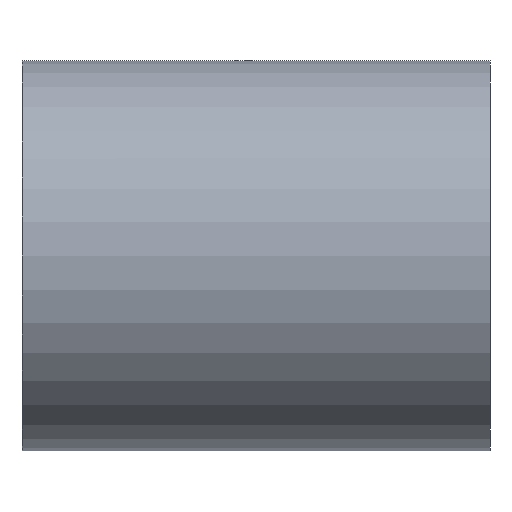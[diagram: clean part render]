
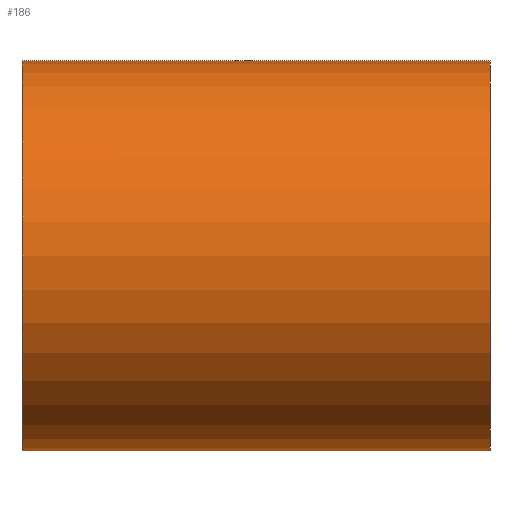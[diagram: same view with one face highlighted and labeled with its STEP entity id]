
A CAD part, front view. The second image highlights one B-rep face of the part: STEP entity #186.
In plain terms, the highlighted cylindrical face has radius 500 mm (diameter 1000 mm), a partial arc.
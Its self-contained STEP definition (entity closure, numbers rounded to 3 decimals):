
#186=ADVANCED_FACE('',(#374),#375,.T.);
#374=FACE_OUTER_BOUND('',#589,.T.);
#375=CYLINDRICAL_SURFACE('',#590,500.0);
#589=EDGE_LOOP('',(#1079,#1080,#1081,#1082));
#590=AXIS2_PLACEMENT_3D('',#1083,#1084,#1085);
#1079=ORIENTED_EDGE('',*,*,#1167,.T.);
#1080=ORIENTED_EDGE('',*,*,#1373,.F.);
#1081=ORIENTED_EDGE('',*,*,#1169,.T.);
#1082=ORIENTED_EDGE('',*,*,#1374,.F.);
#1083=CARTESIAN_POINT('',(0.0,0.0,0.0));
#1084=DIRECTION('',(1.0,0.0,0.0));
#1085=DIRECTION('',(0.0,0.0,-1.0));
#1167=EDGE_CURVE('',#1378,#1379,#1380,.T.);
#1169=EDGE_CURVE('',#1383,#1381,#1384,.T.);
#1373=EDGE_CURVE('',#1383,#1379,#1687,.T.);
#1374=EDGE_CURVE('',#1378,#1381,#1688,.T.);
#1378=VERTEX_POINT('',#1692);
#1379=VERTEX_POINT('',#1693);
#1380=LINE('',#1694,#1695);
#1381=VERTEX_POINT('',#1696);
#1383=VERTEX_POINT('',#1698);
#1384=LINE('',#1699,#1700);
#1687=CIRCLE('',#2063,500.0);
#1688=CIRCLE('',#2064,500.0);
#1692=CARTESIAN_POINT('',(-600.0,0.0,-500.0));
#1693=CARTESIAN_POINT('',(600.0,0.0,-500.0));
#1694=CARTESIAN_POINT('',(0.0,0.,-500.0));
#1695=VECTOR('',#2067,1.0);
#1696=CARTESIAN_POINT('',(-600.0,0.,500.0));
#1698=CARTESIAN_POINT('',(600.0,0.,500.0));
#1699=CARTESIAN_POINT('',(0.0,0.,500.0));
#1700=VECTOR('',#2071,1.0);
#2063=AXIS2_PLACEMENT_3D('',#2402,#2403,#2404);
#2064=AXIS2_PLACEMENT_3D('',#2405,#2406,#2407);
#2067=DIRECTION('',(1.0,0.0,0.0));
#2071=DIRECTION('',(-1.0,-0.0,-0.0));
#2402=CARTESIAN_POINT('',(600.0,0.0,0.0));
#2403=DIRECTION('',(1.0,0.0,0.0));
#2404=DIRECTION('',(0.0,0.0,-1.0));
#2405=CARTESIAN_POINT('',(-600.0,0.0,0.0));
#2406=DIRECTION('',(-1.0,0.0,0.0));
#2407=DIRECTION('',(0.0,0.0,-1.0));
